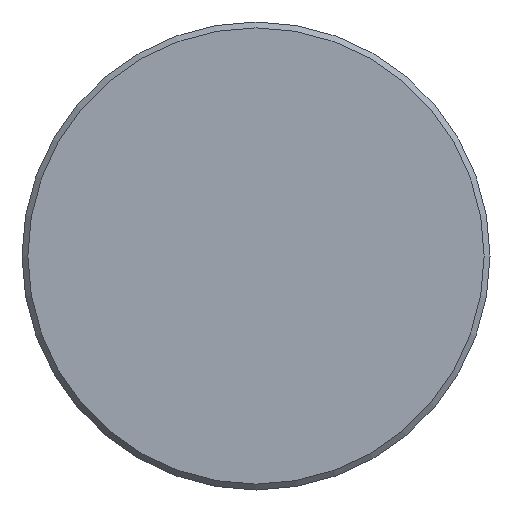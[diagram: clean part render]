
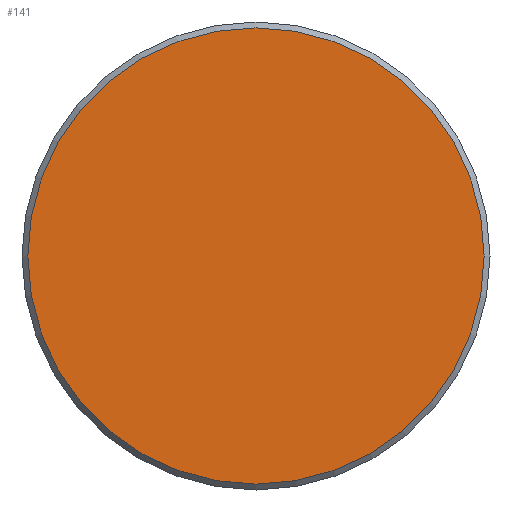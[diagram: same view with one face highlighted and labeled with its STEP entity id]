
A CAD part, front view. The second image highlights one B-rep face of the part: STEP entity #141.
In plain terms, the highlighted planar face has unit normal (0, -1, 0).
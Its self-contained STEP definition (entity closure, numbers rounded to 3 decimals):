
#141 = ADVANCED_FACE( '', ( #286 ), #287, .F. );
#286 = FACE_OUTER_BOUND( '', #468, .T. );
#287 = PLANE( '', #469 );
#468 = EDGE_LOOP( '', ( #651 ) );
#469 = AXIS2_PLACEMENT_3D( '', #652, #653, #654 );
#651 = ORIENTED_EDGE( '', *, *, #1021, .T. );
#652 = CARTESIAN_POINT( '', ( 19.5, 0., 0. ) );
#653 = DIRECTION( '', ( 0., 1., 0. ) );
#654 = DIRECTION( '', ( 0., 0., 1. ) );
#1021 = EDGE_CURVE( '', #1170, #1170, #1171, .T. );
#1170 = VERTEX_POINT( '', #1402 );
#1171 = CIRCLE( '', #1403, 19.5 );
#1402 = CARTESIAN_POINT( '', ( 0., 0., -19.5 ) );
#1403 = AXIS2_PLACEMENT_3D( '', #1824, #1825, #1826 );
#1824 = CARTESIAN_POINT( '', ( 0., 0., 0. ) );
#1825 = DIRECTION( '', ( 0., -1., 0. ) );
#1826 = DIRECTION( '', ( 0., 0., -1. ) );
